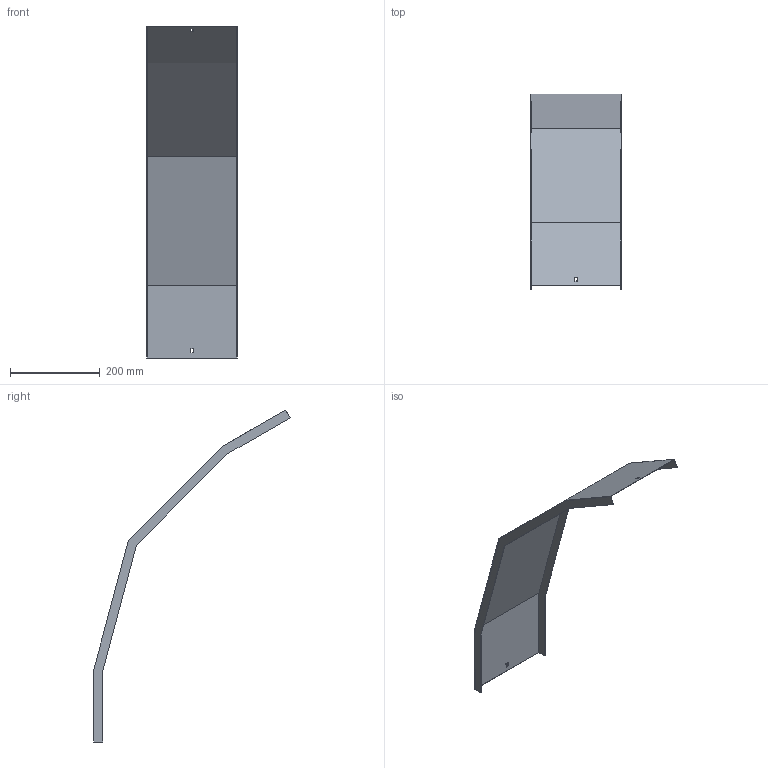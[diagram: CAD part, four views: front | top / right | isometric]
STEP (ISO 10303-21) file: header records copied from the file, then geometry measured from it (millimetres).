
FILE_DESCRIPTION (( 'STEP AP214' ), '1' );
FILE_NAME ('41N5C200.step', '2025-02-21T10:37:29', ( '' ), ( '' ), 'SwSTEP 2.0', 'SolidWorks 2023', '' );
FILE_SCHEMA (( 'AUTOMOTIVE_DESIGN' ));
Length unit declared in the file: millimetre
Products named in the file (1): 41N5C200
Bounding box: 203 x 437.72 x 740.83 mm (x, y, z)
Volume: 329878 mm3; surface area: 443346.7 mm2
Topology: 1 solids, 1 shells, 30 faces, 84 edges, 56 vertices
Faces by surface type: plane 30
Entity records: 979 total; most frequent: CARTESIAN_POINT 171, ORIENTED_EDGE 168, DIRECTION 146, VECTOR 84, EDGE_CURVE 84, LINE 84, VERTEX_POINT 56, EDGE_LOOP 34
